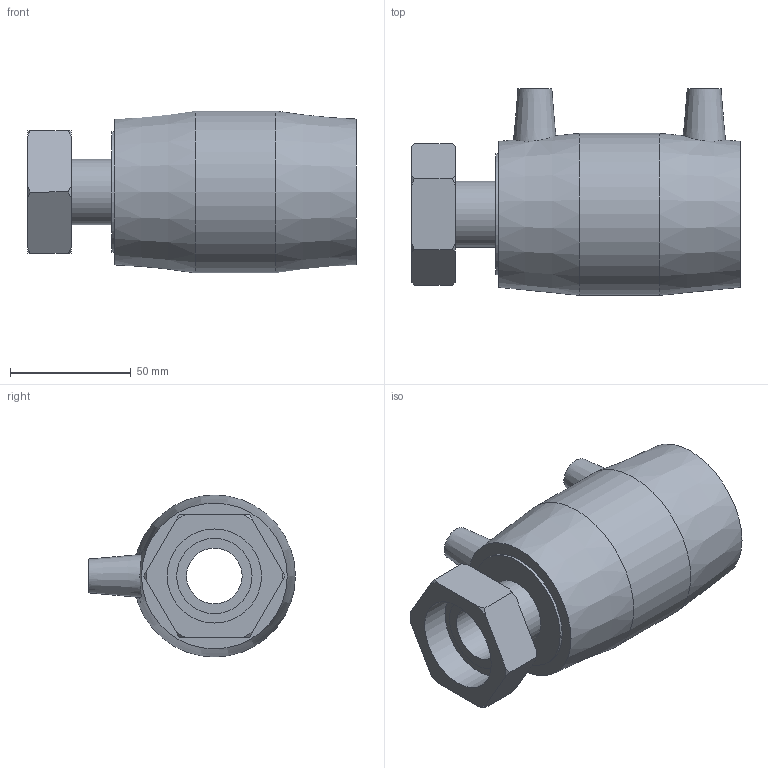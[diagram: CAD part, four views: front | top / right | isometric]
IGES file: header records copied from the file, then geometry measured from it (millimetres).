
Global section: file name: 494104050013.ipt; native system: Autodesk Inventor 2015; preprocessor: unknown; author: KIM; date: 20171106.094131; units: millimetre
Bounding box: 136 x 85.5 x 67 mm (x, y, z)
Volume: 245420.3 mm3; surface area: 53678.2 mm2
Topology: 1 solids, 2 shells, 54 faces, 128 edges, 88 vertices
Faces by surface type: plane 22, cone 16, revolution 9, cylinder 7
Full cylindrical faces by diameter (mm): 4 x2, 27.266 x1, 31.162 x1, 50 x2, 67 x1
